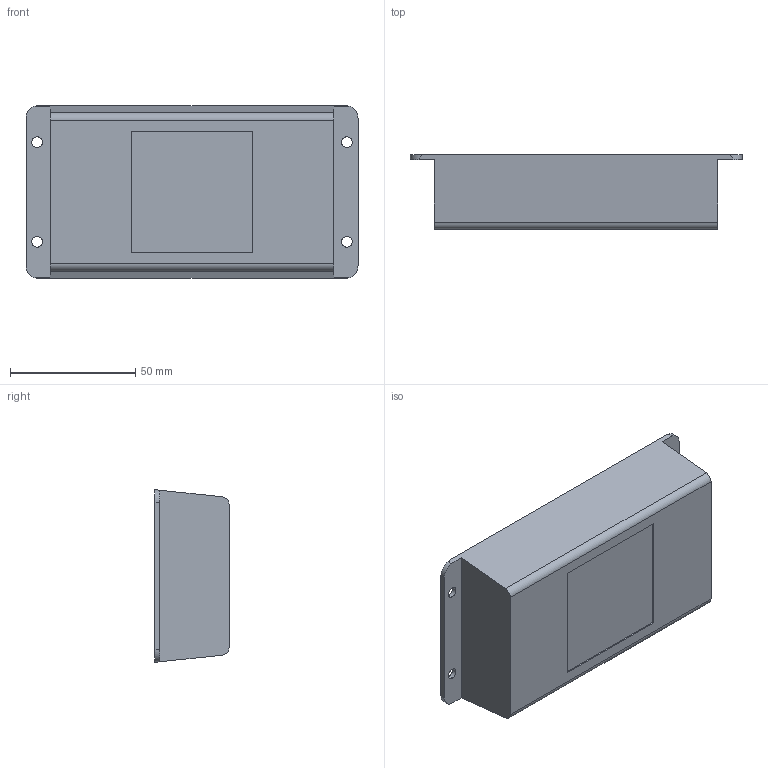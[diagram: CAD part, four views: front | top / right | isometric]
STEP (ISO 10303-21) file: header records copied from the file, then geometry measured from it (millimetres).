
FILE_DESCRIPTION (( 'STEP AP214' ), '1' );
FILE_NAME ('Tapa PP45.STEP', '2017-08-22T07:12:37', ( 'aaa' ), ( '' ), 'SwSTEP 2.0', 'SolidWorks 2013', '' );
FILE_SCHEMA (( 'AUTOMOTIVE_DESIGN' ));
Length unit declared in the file: millimetre
Products named in the file (1): Tapa PP45
Bounding box: 132.75 x 29.6 x 69 mm (x, y, z)
Volume: 35867.1 mm3; surface area: 40060.9 mm2
Topology: 1 solids, 1 shells, 66 faces, 166 edges, 108 vertices
Faces by surface type: cylinder 30, plane 28, cone 8
Entity records: 2044 total; most frequent: CARTESIAN_POINT 377, DIRECTION 356, ORIENTED_EDGE 332, EDGE_CURVE 166, AXIS2_PLACEMENT_3D 135, VERTEX_POINT 108, VECTOR 86, LINE 86
